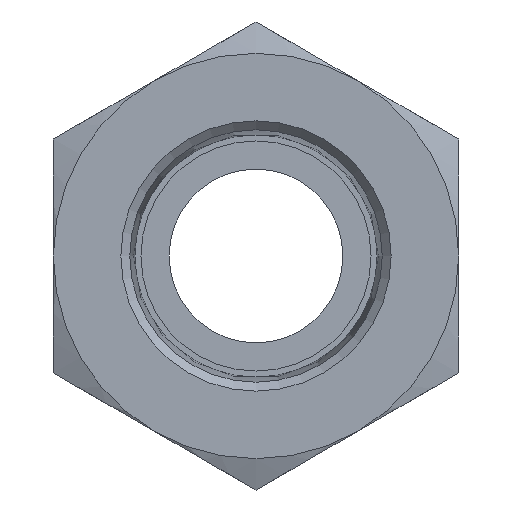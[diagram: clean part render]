
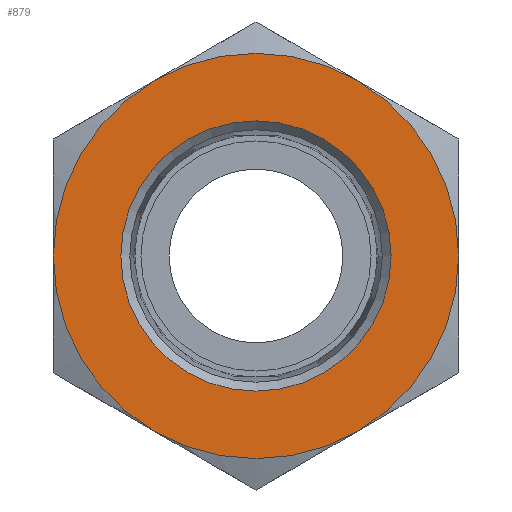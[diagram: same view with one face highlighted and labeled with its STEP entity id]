
A CAD part, front view. The second image highlights one B-rep face of the part: STEP entity #879.
In plain terms, the highlighted planar face has unit normal (0, -1, 0).
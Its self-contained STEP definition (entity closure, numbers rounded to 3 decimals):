
#16=FACE_BOUND('',#160,.T.);
#103=FACE_OUTER_BOUND('',#159,.T.);
#159=EDGE_LOOP('',(#679,#680,#681,#682,#683,#684));
#160=EDGE_LOOP('',(#685));
#219=CIRCLE('',#981,4.669);
#223=CIRCLE('',#987,7.);
#224=CIRCLE('',#988,7.);
#225=CIRCLE('',#989,7.);
#226=CIRCLE('',#990,7.);
#227=CIRCLE('',#991,7.);
#228=CIRCLE('',#992,7.);
#397=VERTEX_POINT('',#1413);
#411=VERTEX_POINT('',#1458);
#415=VERTEX_POINT('',#1470);
#416=VERTEX_POINT('',#1471);
#417=VERTEX_POINT('',#1473);
#418=VERTEX_POINT('',#1476);
#419=VERTEX_POINT('',#1478);
#512=EDGE_CURVE('',#411,#411,#219,.T.);
#518=EDGE_CURVE('',#415,#416,#223,.T.);
#519=EDGE_CURVE('',#416,#417,#224,.T.);
#520=EDGE_CURVE('',#417,#397,#225,.T.);
#521=EDGE_CURVE('',#397,#418,#226,.T.);
#522=EDGE_CURVE('',#418,#419,#227,.T.);
#523=EDGE_CURVE('',#419,#415,#228,.T.);
#679=ORIENTED_EDGE('',*,*,#518,.T.);
#680=ORIENTED_EDGE('',*,*,#519,.T.);
#681=ORIENTED_EDGE('',*,*,#520,.T.);
#682=ORIENTED_EDGE('',*,*,#521,.T.);
#683=ORIENTED_EDGE('',*,*,#522,.T.);
#684=ORIENTED_EDGE('',*,*,#523,.T.);
#685=ORIENTED_EDGE('',*,*,#512,.F.);
#840=PLANE('',#986);
#879=ADVANCED_FACE('',(#103,#16),#840,.F.);
#981=AXIS2_PLACEMENT_3D('',#1459,#1180,#1181);
#986=AXIS2_PLACEMENT_3D('',#1469,#1192,#1193);
#987=AXIS2_PLACEMENT_3D('',#1472,#1194,#1195);
#988=AXIS2_PLACEMENT_3D('',#1474,#1196,#1197);
#989=AXIS2_PLACEMENT_3D('',#1475,#1198,#1199);
#990=AXIS2_PLACEMENT_3D('',#1477,#1200,#1201);
#991=AXIS2_PLACEMENT_3D('',#1479,#1202,#1203);
#992=AXIS2_PLACEMENT_3D('',#1480,#1204,#1205);
#1180=DIRECTION('center_axis',(0.,-1.,0.));
#1181=DIRECTION('ref_axis',(-1.,0.,0.));
#1192=DIRECTION('center_axis',(0.,1.,0.));
#1193=DIRECTION('ref_axis',(0.,0.,1.));
#1194=DIRECTION('center_axis',(0.,-1.,0.));
#1195=DIRECTION('ref_axis',(1.,0.,0.));
#1196=DIRECTION('center_axis',(0.,-1.,0.));
#1197=DIRECTION('ref_axis',(1.,0.,0.));
#1198=DIRECTION('center_axis',(0.,-1.,0.));
#1199=DIRECTION('ref_axis',(1.,0.,0.));
#1200=DIRECTION('center_axis',(0.,-1.,0.));
#1201=DIRECTION('ref_axis',(1.,0.,0.));
#1202=DIRECTION('center_axis',(0.,-1.,0.));
#1203=DIRECTION('ref_axis',(1.,0.,0.));
#1204=DIRECTION('center_axis',(0.,-1.,0.));
#1205=DIRECTION('ref_axis',(1.,0.,0.));
#1413=CARTESIAN_POINT('',(3.5,0.,6.062));
#1458=CARTESIAN_POINT('',(4.669,0.,0.));
#1459=CARTESIAN_POINT('Origin',(0.,0.,0.));
#1469=CARTESIAN_POINT('Origin',(0.,0.,0.));
#1470=CARTESIAN_POINT('',(-3.5,0.,-6.062));
#1471=CARTESIAN_POINT('',(3.5,0.,-6.062));
#1472=CARTESIAN_POINT('Origin',(0.,0.,0.));
#1473=CARTESIAN_POINT('',(7.,0.,0.));
#1474=CARTESIAN_POINT('Origin',(0.,0.,0.));
#1475=CARTESIAN_POINT('Origin',(0.,0.,0.));
#1476=CARTESIAN_POINT('',(-3.5,0.,6.062));
#1477=CARTESIAN_POINT('Origin',(0.,0.,0.));
#1478=CARTESIAN_POINT('',(-7.,0.,0.));
#1479=CARTESIAN_POINT('Origin',(0.,0.,0.));
#1480=CARTESIAN_POINT('Origin',(0.,0.,0.));
